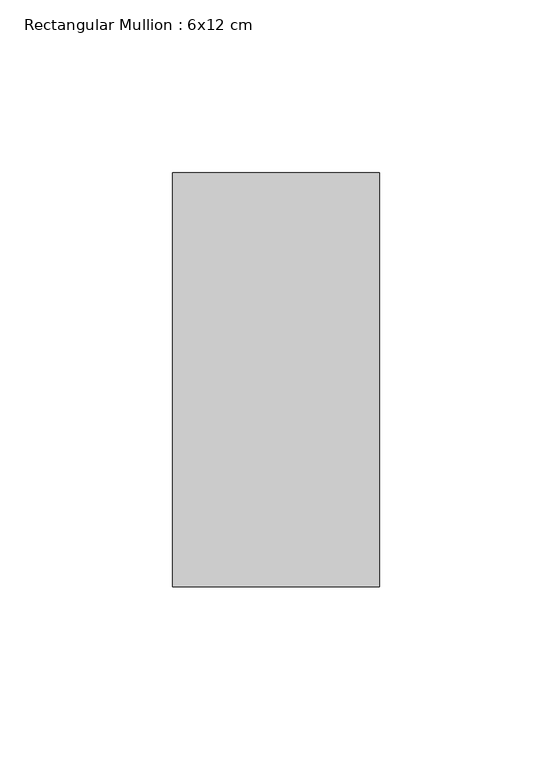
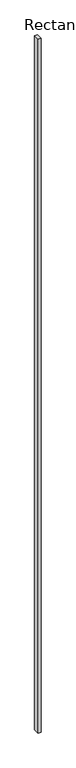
"""IFC4 building model written with IfcOpenShell, lengths in millimetres: member geometry, Rectangular Mullion : 6x12 cm."""

from ifc_helpers import new_model, si_unit, frame, origin, place, context, project, spatial, polyline, outline, extrude, source, transform, mapped, element, save


def rectangular_mullion_6x12_cm_8dff6dec(model_context):
    return source(origin(), model_context, "Body", "SweptSolid", [
        extrude(outline(polyline([(30.0, 205.0), (30.0, 85.0), (-30.0, 85.0), (-30.0, 205.0), (30.0, 205.0)])), frame((0.0, 0.0, -14709.3176974), z_axis=(0.0, 0.0, 1.0), x_axis=(1.0, 0.0, 0.0)), (0.0, 0.0, 1.0), 14709.3176974),
    ])


if __name__ == "__main__":
    model = new_model("IFC4")
    model_context = context("Model", 3, world=origin())
    ifc_project = project(units=[si_unit("LENGTHUNIT", "METRE", prefix="MILLI")], contexts=[model_context])
    site = spatial("IfcSite", under=ifc_project)
    building = spatial("IfcBuilding", under=site)
    placement = place(None, origin())
    rectangular_mullion_6x12_cm_shape = rectangular_mullion_6x12_cm_8dff6dec(model_context)
    element("IfcMember", 1, ObjectType="Rectangular Mullion : 6x12 cm", at=placement, inside=building, context=model_context, shape_type="MappedRepresentation", body=[
        mapped(rectangular_mullion_6x12_cm_shape, transform((0.0, 0.0, 0.0), x_axis=(1.0, 0.0, 0.0), y_axis=(0.0, 1.0, 0.0), z_axis=(0.0, 0.0, 1.0))),
    ])
    save(model, "model.ifc")
